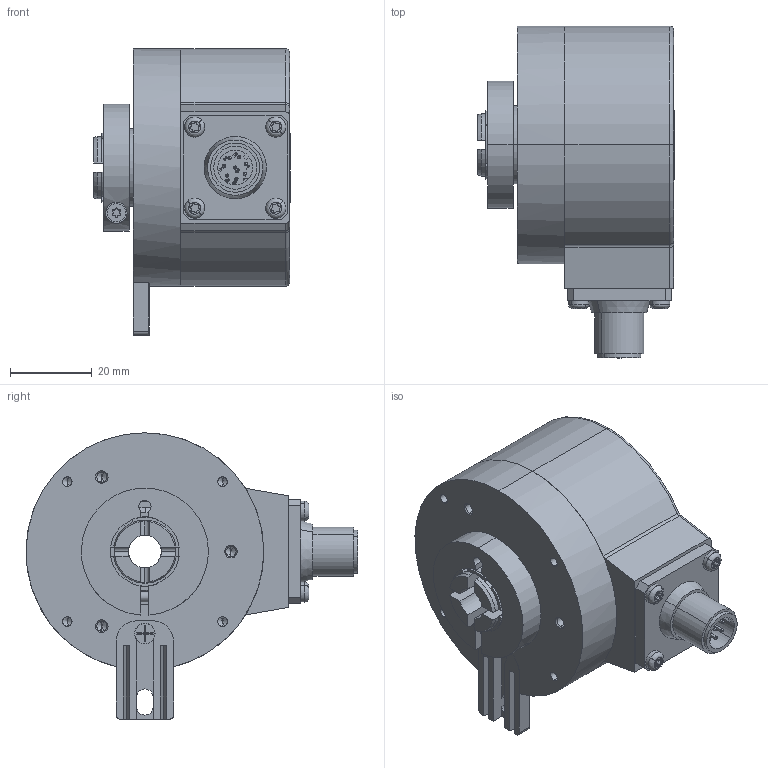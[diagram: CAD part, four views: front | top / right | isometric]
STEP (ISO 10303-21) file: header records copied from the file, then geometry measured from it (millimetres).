
FILE_DESCRIPTION (( 'STEP AP203' ), '1' );
FILE_NAME ('K58I.OXX.XXXXX.XH21508.6XRC5.step', '2025-12-08T13:49:54', ( '' ), ( '' ), 'SwSTEP 2.0', 'SolidWorks 2021', '' );
FILE_SCHEMA (( 'CONFIG_CONTROL_DESIGN' ));
Length unit declared in the file: millimetre
Products named in the file (1): K58I.OXX.XXXXX.XH21508.6XRC5
Bounding box: 48 x 81 x 69.9 mm (x, y, z)
Volume: 112017.4 mm3; surface area: 36646.8 mm2
Topology: 8 solids, 8 shells, 586 faces, 1530 edges, 982 vertices
Faces by surface type: cylinder 239, plane 201, bspline 70, cone 51, sphere 16, torus 9
Entity records: 22137 total; most frequent: CARTESIAN_POINT 8005, ORIENTED_EDGE 2968, DIRECTION 2866, EDGE_CURVE 1484, AXIS2_PLACEMENT_3D 1061, VERTEX_POINT 966, LINE 744, VECTOR 744
